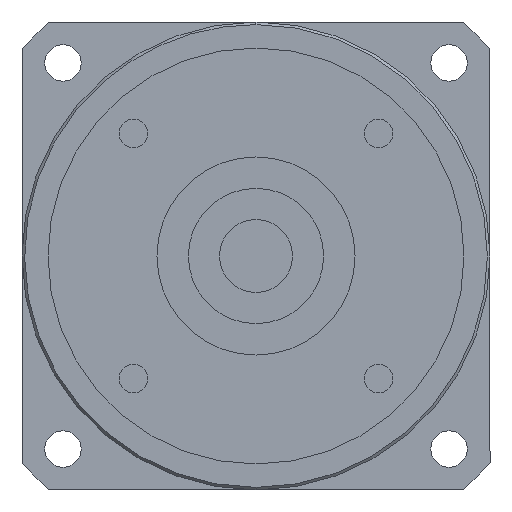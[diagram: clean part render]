
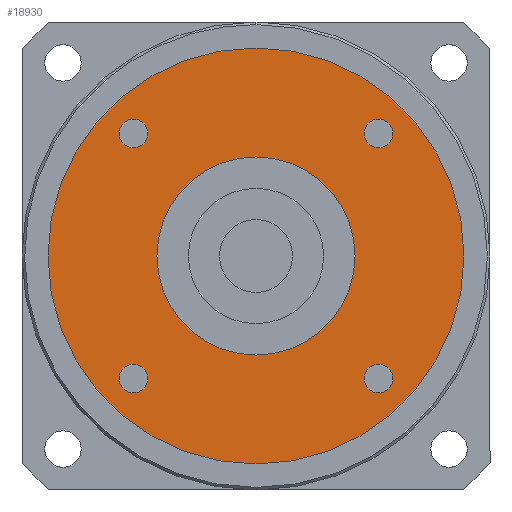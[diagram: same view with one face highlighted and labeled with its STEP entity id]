
A CAD part, left-side view. The second image highlights one B-rep face of the part: STEP entity #18930.
In plain terms, the highlighted planar face has unit normal (-1, 0, 0) as drawn and (0, 0, -1) by its records, which use the part's own axes.
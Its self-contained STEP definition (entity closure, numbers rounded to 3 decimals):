
#15710=CARTESIAN_POINT('',(-20.821,-23.571,-117.));
#15720=VERTEX_POINT('',#15710);
#15900=CARTESIAN_POINT('',(-26.321,-23.571,-117.));
#15910=VERTEX_POINT('',#15900);
#15940=CARTESIAN_POINT('',(-23.571,-23.571,-117.));
#15950=DIRECTION('',(0.,0.,-1.));
#15960=DIRECTION('',(0.,-1.,0.));
#15970=AXIS2_PLACEMENT_3D('',#15940,#15950,#15960);
#15980=CIRCLE('',#15970,2.75);
#15990=CARTESIAN_POINT('',(-23.571,-26.321,-117.));
#16000=VERTEX_POINT('',#15990);
#16010=EDGE_CURVE('',#16000,#15910,#15980,.T.);
#16030=EDGE_CURVE('',#15720,#16000,#15980,.T.);
#16130=CARTESIAN_POINT('',(0.,0.,
-117.));
#16140=DIRECTION('',(0.,0.,1.));
#16150=DIRECTION('',(0.,-1.,0.));
#16160=AXIS2_PLACEMENT_3D('',#16130,#16140,#16150);
#16170=CIRCLE('',#16160,19.05);
#16180=CARTESIAN_POINT('',(0.,-19.05,-117.));
#16190=VERTEX_POINT('',#16180);
#16200=CARTESIAN_POINT('',(19.05,0.,-117.));
#16210=VERTEX_POINT('',#16200);
#16220=EDGE_CURVE('',#16190,#16210,#16170,.T.);
#16450=CARTESIAN_POINT('',(-19.05,0.,-117.));
#16460=VERTEX_POINT('',#16450);
#16490=EDGE_CURVE('',#16460,#16190,#16170,.T.);
#17860=CARTESIAN_POINT('',(40.,0.,-117.));
#17870=VERTEX_POINT('',#17860);
#17900=CARTESIAN_POINT('',(0.,0.,
-117.));
#17910=DIRECTION('',(0.,0.,1.));
#17920=DIRECTION('',(0.,-1.,0.));
#17930=AXIS2_PLACEMENT_3D('',#17900,#17910,#17920);
#17940=CIRCLE('',#17930,40.);
#17950=CARTESIAN_POINT('',(0.,-40.,-117.));
#17960=VERTEX_POINT('',#17950);
#17970=EDGE_CURVE('',#17960,#17870,#17940,.T.);
#17990=CARTESIAN_POINT('',(-40.,0.,-117.));
#18000=VERTEX_POINT('',#17990);
#18010=EDGE_CURVE('',#18000,#17960,#17940,.T.);
#18130=CARTESIAN_POINT('',(0.,0.,
-117.));
#18140=DIRECTION('',(0.,0.,1.));
#18150=DIRECTION('',(-1.,0.,0.));
#18160=AXIS2_PLACEMENT_3D('',#18130,#18140,#18150);
#18170=PLANE('',#18160);
#18180=CARTESIAN_POINT('',(23.571,-23.571,-117.));
#18190=DIRECTION('',(0.,0.,-1.));
#18200=DIRECTION('',(1.,0.,0.));
#18210=AXIS2_PLACEMENT_3D('',#18180,#18190,#18200);
#18220=CIRCLE('',#18210,2.75);
#18230=CARTESIAN_POINT('',(26.321,-23.571,-117.));
#18240=VERTEX_POINT('',#18230);
#18250=CARTESIAN_POINT('',(23.571,-26.321,-117.));
#18260=VERTEX_POINT('',#18250);
#18270=EDGE_CURVE('',#18240,#18260,#18220,.T.);
#18280=ORIENTED_EDGE('',*,*,#18270,.F.);
#18290=CARTESIAN_POINT('',(23.571,-20.821,-117.));
#18300=VERTEX_POINT('',#18290);
#18310=EDGE_CURVE('',#18260,#18300,#18220,.T.);
#18320=ORIENTED_EDGE('',*,*,#18310,.F.);
#18330=EDGE_CURVE('',#18300,#18240,#18220,.T.);
#18340=ORIENTED_EDGE('',*,*,#18330,.F.);
#18350=EDGE_LOOP('',(#18340,#18320,#18280));
#18360=FACE_BOUND('',#18350,.T.);
#18370=CARTESIAN_POINT('',(23.571,23.571,-117.));
#18380=DIRECTION('',(0.,0.,-1.));
#18390=DIRECTION('',(0.,1.,0.));
#18400=AXIS2_PLACEMENT_3D('',#18370,#18380,#18390);
#18410=CIRCLE('',#18400,2.75);
#18420=CARTESIAN_POINT('',(23.571,26.321,-117.));
#18430=VERTEX_POINT('',#18420);
#18440=CARTESIAN_POINT('',(26.321,23.571,-117.));
#18450=VERTEX_POINT('',#18440);
#18460=EDGE_CURVE('',#18430,#18450,#18410,.T.);
#18470=ORIENTED_EDGE('',*,*,#18460,.F.);
#18480=CARTESIAN_POINT('',(20.821,23.571,-117.));
#18490=VERTEX_POINT('',#18480);
#18500=EDGE_CURVE('',#18450,#18490,#18410,.T.);
#18510=ORIENTED_EDGE('',*,*,#18500,.F.);
#18520=EDGE_CURVE('',#18490,#18430,#18410,.T.);
#18530=ORIENTED_EDGE('',*,*,#18520,.F.);
#18540=EDGE_LOOP('',(#18530,#18510,#18470));
#18550=FACE_BOUND('',#18540,.T.);
#18560=CARTESIAN_POINT('',(-23.571,23.571,-117.));
#18570=DIRECTION('',(0.,0.,-1.));
#18580=DIRECTION('',(-1.,0.,0.));
#18590=AXIS2_PLACEMENT_3D('',#18560,#18570,#18580);
#18600=CIRCLE('',#18590,2.75);
#18610=CARTESIAN_POINT('',(-26.321,23.571,-117.));
#18620=VERTEX_POINT('',#18610);
#18630=CARTESIAN_POINT('',(-23.571,26.321,-117.));
#18640=VERTEX_POINT('',#18630);
#18650=EDGE_CURVE('',#18620,#18640,#18600,.T.);
#18660=ORIENTED_EDGE('',*,*,#18650,.F.);
#18670=CARTESIAN_POINT('',(-23.571,20.821,-117.));
#18680=VERTEX_POINT('',#18670);
#18690=EDGE_CURVE('',#18640,#18680,#18600,.T.);
#18700=ORIENTED_EDGE('',*,*,#18690,.F.);
#18710=EDGE_CURVE('',#18680,#18620,#18600,.T.);
#18720=ORIENTED_EDGE('',*,*,#18710,.F.);
#18730=EDGE_LOOP('',(#18720,#18700,#18660));
#18740=FACE_BOUND('',#18730,.T.);
#18750=ORIENTED_EDGE('',*,*,#16010,.F.);
#18760=EDGE_CURVE('',#15910,#15720,#15980,.T.);
#18770=ORIENTED_EDGE('',*,*,#18760,.F.);
#18780=ORIENTED_EDGE('',*,*,#16030,.F.);
#18790=EDGE_LOOP('',(#18780,#18770,#18750));
#18800=FACE_BOUND('',#18790,.T.);
#18810=ORIENTED_EDGE('',*,*,#17970,.F.);
#18820=EDGE_CURVE('',#17870,#18000,#17940,.T.);
#18830=ORIENTED_EDGE('',*,*,#18820,.F.);
#18840=ORIENTED_EDGE('',*,*,#18010,.F.);
#18850=EDGE_LOOP('',(#18840,#18830,#18810));
#18860=FACE_OUTER_BOUND('',#18850,.T.);
#18870=EDGE_CURVE('',#16210,#16460,#16170,.T.);
#18880=ORIENTED_EDGE('',*,*,#18870,.T.);
#18890=ORIENTED_EDGE('',*,*,#16220,.T.);
#18900=ORIENTED_EDGE('',*,*,#16490,.T.);
#18910=EDGE_LOOP('',(#18900,#18890,#18880));
#18920=FACE_BOUND('',#18910,.T.);
#18930=ADVANCED_FACE('',(#18360,#18550,#18740,#18800,#18860,#18920),
#18170,.F.);
